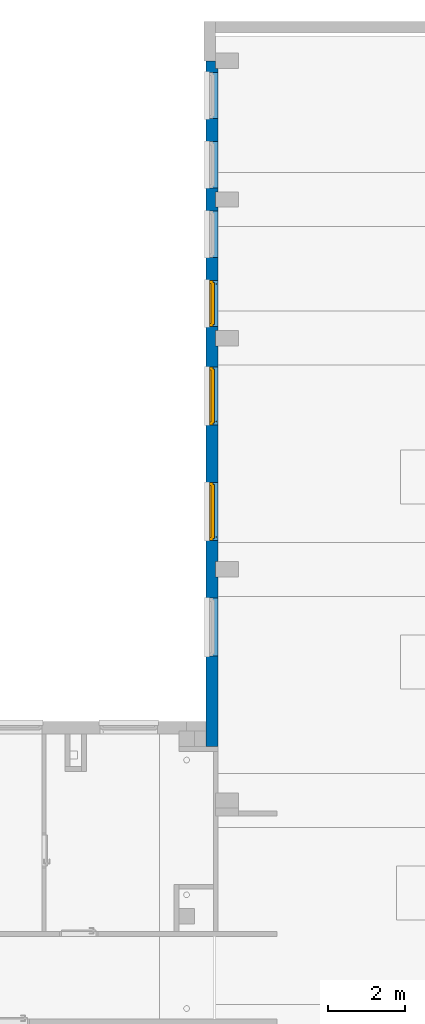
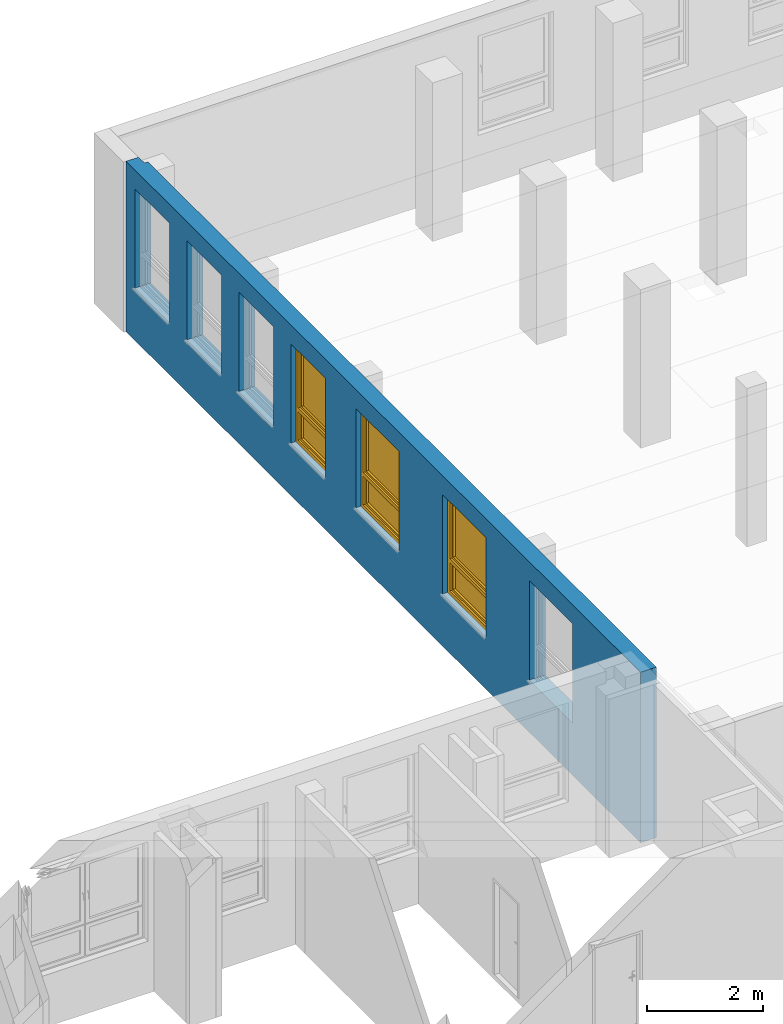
# One storey, part 26 of 50: 3 windows, 1 wall, 7 openings.
"""IFC4 building model written with IfcOpenShell, lengths in metres."""

from ifc_helpers import new_model, entity, si_unit, converted_unit, derived_unit, frame, origin, origin_with_axes, place, context, subcontext, project, spatial, polyline, outline, extrude, clip, bounded_halfspace, closed_shell, open_shell, surface_model, source, transform, mapped, material, layer, layer_set, layer_usage, element, fill, save


model = new_model("IFC4")

# Units and contexts
model_context = context("Model", 3, precision=1e-05, world=origin())
body_context = subcontext(model_context, "Body", "Model", "MODEL_VIEW")
ifc_project = project(units=[si_unit("LENGTHUNIT", "METRE"), si_unit("AREAUNIT", "SQUARE_METRE"), si_unit("VOLUMEUNIT", "CUBIC_METRE"), si_unit("MASSUNIT", "GRAM", prefix="KILO"), converted_unit("PLANEANGLEUNIT", "DEGREE", entity("IfcPlaneAngleMeasure", 0.0174532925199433), si_unit("PLANEANGLEUNIT", "RADIAN"), dimensions=[0, 0, 0, 0, 0, 0, 0]), derived_unit("THERMALTRANSMITTANCEUNIT", [(si_unit("POWERUNIT", "WATT"), 1), (si_unit("THERMODYNAMICTEMPERATUREUNIT", "KELVIN"), -1), (si_unit("LENGTHUNIT", "METRE"), -2)]), derived_unit("VOLUMETRICFLOWRATEUNIT", [(si_unit("LENGTHUNIT", "METRE"), 3), (converted_unit("TIMEUNIT", "hour", entity("IfcTimeMeasure", 3600.0), si_unit("TIMEUNIT", "SECOND"), dimensions=[0, 0, 1, 0, 0, 0, 0]), -1), (si_unit("LENGTHUNIT", "METRE"), -1)])], contexts=[model_context])

# Site, building, storey
site_placement = place(None, origin())
site = spatial("IfcSite", under=ifc_project, at=site_placement, Name="3. ASŘ", CompositionType="ELEMENT")
building_placement = place(site_placement, origin())
building = spatial("IfcBuilding", under=site, at=building_placement, Name="Pavilon C", CompositionType="ELEMENT")
storey_placement = place(building_placement, frame((0.0, 0.0, 3.6)))
storey = spatial("IfcBuildingStorey", under=building, at=storey_placement, Name="Půdorys 2.NP", CompositionType="ELEMENT", Elevation=3.6)

# Wall, openings, windows
ifc_material = material(Name="ZELEZOBETONOVÁ KCE")
ifc_layer = layer(ifc_material, 0.32)
ifc_layer_set = layer_set([ifc_layer])
ifc_layer_usage = layer_usage(ifc_layer_set, "AXIS2", "POSITIVE", 0.0)
wall_placement = place(storey_placement, frame((24.5, 32.4, -0.1), z_axis=(0.0, 0.0, 1.0), x_axis=(-2.04380831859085e-16, -1.0, 0.0)))
wall = element("IfcWall", 1, at=wall_placement, inside=storey, material=ifc_layer_usage, Name="ZELEZOBETONOVÁ KCE", context=body_context, shape_type="Clipping", body=[
    clip(clip(clip(extrude(outline(polyline([(-17.8, 0.0), (0.0, 0.0), (-6.54018661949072e-17, 0.32), (-17.6, 0.32), (-17.6, 0.25), (-17.8, 0.25), (-17.8, 0.0)])), frame((17.8, 0.0, 0.0), z_axis=(0.0, 0.0, 1.0), x_axis=(1.0, 0.0, 0.0)), (0.0, 0.0, 1.0), 3.6), bounded_halfspace(frame((3.6, 0.285000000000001, 3.35), z_axis=(0.0, 0.0, 1.0), x_axis=(2.04380831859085e-16, -1.0, 0.0)), True, origin_with_axes(), polyline([(3.4, 0.320000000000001), (3.4, 0.250000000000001), (3.8, 0.250000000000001), (3.8, 0.320000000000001), (3.4, 0.320000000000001)]))), bounded_halfspace(frame((7.2, 0.285000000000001, 3.35), z_axis=(0.0, 0.0, 1.0), x_axis=(2.04380831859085e-16, -1.0, 0.0)), True, origin_with_axes(), polyline([(7.0, 0.320000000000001), (7.0, 0.250000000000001), (7.4, 0.250000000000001), (7.4, 0.320000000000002), (7.0, 0.320000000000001)]))), bounded_halfspace(frame((13.2, 0.285000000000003, 3.35), z_axis=(0.0, 0.0, 1.0), x_axis=(2.04380831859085e-16, -1.0, 0.0)), True, origin_with_axes(), polyline([(13.0, 0.320000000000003), (13.0, 0.250000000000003), (13.4, 0.250000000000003), (13.4, 0.320000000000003), (13.0, 0.320000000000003)]))),
])
opening_1_placement = place(wall_placement, frame((13.95, -7.86866202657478e-16, 1.1), z_axis=(0.0, 1.0, 0.0), x_axis=(0.0, 0.0, 1.0)))
element("IfcOpeningElement", 2, at=opening_1_placement, cuts=wall, Name="Okenní otvor", ObjectType="Opening", context=body_context, shape_type="SweptSolid", body=[
    extrude(outline(polyline([(0.0, 1.5), (2.1, 1.5), (2.1, 0.0), (0.0, 0.0), (0.0, 1.5)])), origin_with_axes(), (0.0, 0.0, 1.0), 0.32),
])
opening_2_placement = place(wall_placement, frame((10.95, -1.40000869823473e-15, 1.1), z_axis=(0.0, 1.0, 0.0), x_axis=(0.0, 0.0, 1.0)))
opening_2 = element("IfcOpeningElement", 3, at=opening_2_placement, cuts=wall, Name="Okenní otvor", ObjectType="Opening", context=body_context, shape_type="SweptSolid", body=[
    extrude(outline(polyline([(0.0, 1.5), (2.1, 1.5), (2.1, 0.0), (0.0, 0.0), (0.0, 1.5)])), origin_with_axes(), (0.0, 0.0, 1.0), 0.32),
])
opening_3_placement = place(wall_placement, frame((7.95, -2.01315119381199e-15, 1.1), z_axis=(0.0, 1.0, 0.0), x_axis=(0.0, 0.0, 1.0)))
opening_3 = element("IfcOpeningElement", 4, at=opening_3_placement, cuts=wall, Name="Okenní otvor", ObjectType="Opening", context=body_context, shape_type="SweptSolid", body=[
    extrude(outline(polyline([(0.0, 1.5), (2.1, 1.5), (2.1, 0.0), (0.0, 0.0), (0.0, 1.5)])), origin_with_axes(), (0.0, 0.0, 1.0), 0.320000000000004),
])
opening_4_placement = place(wall_placement, frame((5.7, 1.16497074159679e-15, 1.1), z_axis=(0.0, 1.0, 0.0), x_axis=(0.0, 0.0, 1.0)))
opening_4 = element("IfcOpeningElement", 5, at=opening_4_placement, cuts=wall, Name="Okenní otvor", ObjectType="Opening", context=body_context, shape_type="SweptSolid", body=[
    extrude(outline(polyline([(0.0, 1.2), (2.1, 1.2), (2.1, 0.0), (0.0, 0.0), (0.0, 1.2)])), origin_with_axes(), (0.0, 0.0, 1.0), 0.32),
])
opening_5_placement = place(wall_placement, frame((3.90000000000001, 7.97085244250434e-16, 1.1), z_axis=(0.0, 1.0, 0.0), x_axis=(0.0, 0.0, 1.0)))
element("IfcOpeningElement", 6, at=opening_5_placement, cuts=wall, Name="Okenní otvor", ObjectType="Opening", context=body_context, shape_type="SweptSolid", body=[
    extrude(outline(polyline([(0.0, 1.2), (2.1, 1.2), (2.1, 0.0), (0.0, 0.0), (0.0, 1.2)])), origin_with_axes(), (0.0, 0.0, 1.0), 0.32),
])
opening_6_placement = place(wall_placement, frame((2.10000000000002, 4.29199746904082e-16, 1.1), z_axis=(0.0, 1.0, 0.0), x_axis=(0.0, 0.0, 1.0)))
element("IfcOpeningElement", 7, at=opening_6_placement, cuts=wall, Name="Okenní otvor", ObjectType="Opening", context=body_context, shape_type="SweptSolid", body=[
    extrude(outline(polyline([(0.0, 1.2), (2.1, 1.2), (2.1, 0.0), (0.0, 0.0), (0.0, 1.2)])), origin_with_axes(), (0.0, 0.0, 1.0), 0.32),
])
opening_7_placement = place(wall_placement, frame((0.300000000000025, 6.13142495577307e-17, 1.1), z_axis=(-1.77635683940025e-16, 1.0, 0.0), x_axis=(0.0, 0.0, 1.0)))
element("IfcOpeningElement", 8, at=opening_7_placement, cuts=wall, Name="Okenní otvor", ObjectType="Opening", context=body_context, shape_type="SweptSolid", body=[
    extrude(outline(polyline([(0.0, 1.2), (2.1, 1.2), (2.1, 0.0), (0.0, 0.0), (0.0, 1.2)])), origin_with_axes(), (0.0, 0.0, 1.0), 0.32),
])
shared_shape_1 = source(origin_with_axes(), body_context, "Body", "SurfaceModel", [
    surface_model("IfcShellBasedSurfaceModel", [(0.0, 0.182, 2.1), (0.0, 0.182, -5.63337527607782e-18), (0.08, 0.182, -5.63337527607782e-18), (0.08, 0.182, 2.1), (0.0, 0.0899999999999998, 5.63337527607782e-18), (0.0, 0.0900000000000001, 2.1), (0.08, 0.0900000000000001, 2.1), (0.08, 0.0899999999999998, 5.63337527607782e-18)], [closed_shell([[[0, 1, 2, 3]], [[4, 5, 6, 7]], [[1, 0, 5, 4]], [[2, 1, 4, 7]], [[3, 2, 7, 6]], [[0, 3, 6, 5]]], orient=[[False], [False], [False], [False], [False], [False]])]),
    surface_model("IfcShellBasedSurfaceModel", [(1.42, 0.182, 2.1), (1.42, 0.182, -5.63337527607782e-18), (1.5, 0.182, -5.63337527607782e-18), (1.5, 0.182, 2.1), (1.42, 0.0899999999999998, 5.63337527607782e-18), (1.42, 0.0900000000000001, 2.1), (1.5, 0.0900000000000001, 2.1), (1.5, 0.0899999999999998, 5.63337527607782e-18)], [closed_shell([[[0, 1, 2, 3]], [[4, 5, 6, 7]], [[1, 0, 5, 4]], [[2, 1, 4, 7]], [[3, 2, 7, 6]], [[0, 3, 6, 5]]], orient=[[False], [False], [False], [False], [False], [False]])]),
    surface_model("IfcShellBasedSurfaceModel", [(0.08, 0.182, 0.08), (0.08, 0.182, -5.63337527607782e-18), (1.42, 0.182, -5.63337527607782e-18), (1.42, 0.182, 0.08), (0.08, 0.0899999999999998, 5.63337527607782e-18), (0.08, 0.0899999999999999, 0.08), (1.42, 0.0899999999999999, 0.08), (1.42, 0.0899999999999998, 5.63337527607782e-18)], [closed_shell([[[0, 1, 2, 3]], [[4, 5, 6, 7]], [[1, 0, 5, 4]], [[2, 1, 4, 7]], [[3, 2, 7, 6]], [[0, 3, 6, 5]]], orient=[[False], [False], [False], [False], [False], [False]])]),
    surface_model("IfcShellBasedSurfaceModel", [(0.08, 0.182, 2.1), (0.08, 0.182, 2.02), (1.42, 0.182, 2.02), (1.42, 0.182, 2.1), (0.08, 0.0900000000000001, 2.02), (0.08, 0.0900000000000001, 2.1), (1.42, 0.0900000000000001, 2.1), (1.42, 0.0900000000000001, 2.02)], [closed_shell([[[0, 1, 2, 3]], [[4, 5, 6, 7]], [[1, 0, 5, 4]], [[2, 1, 4, 7]], [[3, 2, 7, 6]], [[0, 3, 6, 5]]], orient=[[False], [False], [False], [False], [False], [False]])]),
    surface_model("IfcShellBasedSurfaceModel", [(0.08, 0.182, 0.76), (0.08, 0.182, 0.68), (1.42, 0.182, 0.68), (1.42, 0.182, 0.76), (0.08, 0.0899999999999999, 0.68), (0.08, 0.0899999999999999, 0.76), (1.42, 0.0899999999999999, 0.76), (1.42, 0.0899999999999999, 0.68)], [closed_shell([[[0, 1, 2, 3]], [[4, 5, 6, 7]], [[1, 0, 5, 4]], [[2, 1, 4, 7]], [[3, 2, 7, 6]], [[0, 3, 6, 5]]], orient=[[False], [False], [False], [False], [False], [False]])]),
    surface_model("IfcShellBasedSurfaceModel", [(0.05, 0.145, 0.71), (0.05, 0.145, 0.05), (0.13, 0.145, 0.05), (0.13, 0.145, 0.71), (0.05, 0.0599999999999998, 0.05), (0.05, 0.0599999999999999, 0.71), (0.13, 0.0599999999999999, 0.71), (0.13, 0.0599999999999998, 0.05)], [closed_shell([[[0, 1, 2, 3]], [[4, 5, 6, 7]], [[1, 0, 5, 4]], [[2, 1, 4, 7]], [[3, 2, 7, 6]], [[0, 3, 6, 5]]], orient=[[False], [False], [False], [False], [False], [False]])]),
    surface_model("IfcShellBasedSurfaceModel", [(1.37, 0.145, 0.71), (1.37, 0.145, 0.05), (1.45, 0.145, 0.05), (1.45, 0.145, 0.71), (1.37, 0.0599999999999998, 0.05), (1.37, 0.0599999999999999, 0.71), (1.45, 0.0599999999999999, 0.71), (1.45, 0.0599999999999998, 0.05)], [closed_shell([[[0, 1, 2, 3]], [[4, 5, 6, 7]], [[1, 0, 5, 4]], [[2, 1, 4, 7]], [[3, 2, 7, 6]], [[0, 3, 6, 5]]], orient=[[False], [False], [False], [False], [False], [False]])]),
    surface_model("IfcShellBasedSurfaceModel", [(0.13, 0.145, 0.13), (0.13, 0.145, 0.05), (1.37, 0.145, 0.05), (1.37, 0.145, 0.13), (0.13, 0.0599999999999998, 0.05), (0.13, 0.0599999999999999, 0.13), (1.37, 0.0599999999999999, 0.13), (1.37, 0.0599999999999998, 0.05)], [closed_shell([[[0, 1, 2, 3]], [[4, 5, 6, 7]], [[1, 0, 5, 4]], [[2, 1, 4, 7]], [[3, 2, 7, 6]], [[0, 3, 6, 5]]], orient=[[False], [False], [False], [False], [False], [False]])]),
    surface_model("IfcShellBasedSurfaceModel", [(0.13, 0.145, 0.71), (0.13, 0.145, 0.63), (1.37, 0.145, 0.63), (1.37, 0.145, 0.71), (0.13, 0.0599999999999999, 0.63), (0.13, 0.0599999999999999, 0.71), (1.37, 0.0599999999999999, 0.71), (1.37, 0.0599999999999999, 0.63)], [closed_shell([[[0, 1, 2, 3]], [[4, 5, 6, 7]], [[1, 0, 5, 4]], [[2, 1, 4, 7]], [[3, 2, 7, 6]], [[0, 3, 6, 5]]], orient=[[False], [False], [False], [False], [False], [False]])]),
    surface_model("IfcShellBasedSurfaceModel", [(0.05, 0.145, 2.05), (0.05, 0.145, 0.73), (0.13, 0.145, 0.73), (0.13, 0.145, 2.05), (0.05, 0.0599999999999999, 0.73), (0.05, 0.0600000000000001, 2.05), (0.13, 0.0600000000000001, 2.05), (0.13, 0.0599999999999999, 0.73)], [closed_shell([[[0, 1, 2, 3]], [[4, 5, 6, 7]], [[1, 0, 5, 4]], [[2, 1, 4, 7]], [[3, 2, 7, 6]], [[0, 3, 6, 5]]], orient=[[False], [False], [False], [False], [False], [False]])]),
    surface_model("IfcShellBasedSurfaceModel", [(1.37, 0.145, 2.05), (1.37, 0.145, 0.73), (1.45, 0.145, 0.73), (1.45, 0.145, 2.05), (1.37, 0.0599999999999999, 0.73), (1.37, 0.0600000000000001, 2.05), (1.45, 0.0600000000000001, 2.05), (1.45, 0.0599999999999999, 0.73)], [closed_shell([[[0, 1, 2, 3]], [[4, 5, 6, 7]], [[1, 0, 5, 4]], [[2, 1, 4, 7]], [[3, 2, 7, 6]], [[0, 3, 6, 5]]], orient=[[False], [False], [False], [False], [False], [False]])]),
    surface_model("IfcShellBasedSurfaceModel", [(0.13, 0.145, 0.81), (0.13, 0.145, 0.73), (1.37, 0.145, 0.73), (1.37, 0.145, 0.81), (0.13, 0.0599999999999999, 0.73), (0.13, 0.0599999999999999, 0.81), (1.37, 0.0599999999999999, 0.81), (1.37, 0.0599999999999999, 0.73)], [closed_shell([[[0, 1, 2, 3]], [[4, 5, 6, 7]], [[1, 0, 5, 4]], [[2, 1, 4, 7]], [[3, 2, 7, 6]], [[0, 3, 6, 5]]], orient=[[False], [False], [False], [False], [False], [False]])]),
    surface_model("IfcShellBasedSurfaceModel", [(0.13, 0.145, 2.05), (0.13, 0.145, 1.97), (1.37, 0.145, 1.97), (1.37, 0.145, 2.05), (0.13, 0.0600000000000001, 1.97), (0.13, 0.0600000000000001, 2.05), (1.37, 0.0600000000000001, 2.05), (1.37, 0.0600000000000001, 1.97)], [closed_shell([[[0, 1, 2, 3]], [[4, 5, 6, 7]], [[1, 0, 5, 4]], [[2, 1, 4, 7]], [[3, 2, 7, 6]], [[0, 3, 6, 5]]], orient=[[False], [False], [False], [False], [False], [False]])]),
    surface_model("IfcShellBasedSurfaceModel", [(0.0775, 0.06, 1.41), (0.0775, 0.06, 1.37), (0.1025, 0.06, 1.37), (0.1025, 0.06, 1.41), (0.0775, 0.05, 1.37), (0.0775, 0.05, 1.41), (0.1025, 0.05, 1.41), (0.1025, 0.05, 1.37)], [closed_shell([[[0, 1, 2, 3]], [[4, 5, 6, 7]], [[1, 0, 5, 4]], [[2, 1, 4, 7]], [[3, 2, 7, 6]], [[0, 3, 6, 5]]], orient=[[False], [False], [False], [False], [False], [False]])]),
    surface_model("IfcShellBasedSurfaceModel", [(0.1, 0.05, 1.39), (0.0986602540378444, 0.05, 1.395), (0.095, 0.05, 1.39866025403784), (0.09, 0.05, 1.4), (0.085, 0.05, 1.39866025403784), (0.0813397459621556, 0.05, 1.395), (0.08, 0.05, 1.39), (0.0813397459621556, 0.05, 1.385), (0.085, 0.05, 1.38133974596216), (0.09, 0.05, 1.38), (0.095, 0.05, 1.38133974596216), (0.0986602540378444, 0.05, 1.385), (0.1, 0.01, 1.39), (0.0986602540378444, 0.00500000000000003, 1.395), (0.095, 0.00133974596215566, 1.39866025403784), (0.09, 2.8421709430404e-17, 1.4), (0.085, 0.00133974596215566, 1.39866025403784), (0.0813397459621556, 0.00500000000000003, 1.395), (0.08, 0.01, 1.39), (0.0813397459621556, 0.015, 1.385), (0.085, 0.0186602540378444, 1.38133974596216), (0.09, 0.02, 1.38), (0.095, 0.0186602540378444, 1.38133974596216), (0.0986602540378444, 0.015, 1.385), (0.1, 0.01, 1.275), (0.0986602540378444, 0.005, 1.275), (0.095, 0.00133974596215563, 1.275), (0.09, 0.0, 1.275), (0.085, 0.00133974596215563, 1.275), (0.0813397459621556, 0.005, 1.275), (0.08, 0.01, 1.275), (0.0813397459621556, 0.015, 1.275), (0.085, 0.0186602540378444, 1.275), (0.09, 0.02, 1.275), (0.095, 0.0186602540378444, 1.275), (0.0986602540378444, 0.015, 1.275)], [open_shell([[[0, 1, 2, 3, 4, 5, 6, 7, 8, 9, 10, 11]], [[0, 12, 13, 1]], [[1, 13, 14, 2]], [[2, 14, 15, 3]], [[3, 15, 16, 4]], [[4, 16, 17, 5]], [[5, 17, 18, 6]], [[6, 18, 19, 7]], [[7, 19, 20, 8]], [[8, 20, 21, 9]], [[9, 21, 22, 10]], [[10, 22, 23, 11]], [[11, 23, 12, 0]], [[12, 24, 25, 13]], [[13, 25, 26, 14]], [[14, 26, 27, 15]], [[15, 27, 28, 16]], [[16, 28, 29, 17]], [[17, 29, 30, 18]], [[18, 30, 31, 19]], [[19, 31, 32, 20]], [[20, 32, 33, 21]], [[21, 33, 34, 22]], [[22, 34, 35, 23]], [[23, 35, 24, 12]]], orient=[[False], [False], [False], [False], [False], [False], [False], [False], [False], [False], [False], [False], [False], [False], [False], [False], [False], [False], [False], [False], [False], [False], [False], [False], [False]])]),
    surface_model("IfcShellBasedSurfaceModel", [(0.13, 0.1025, 0.13), (1.37, 0.1025, 0.13), (1.37, 0.1025, 0.63), (0.13, 0.1025, 0.63)], [open_shell([[[0, 1, 2, 3]]], orient=[[False]])]),
    surface_model("IfcShellBasedSurfaceModel", [(0.13, 0.1025, 0.81), (1.37, 0.1025, 0.81), (1.37, 0.1025, 1.97), (0.13, 0.1025, 1.97)], [open_shell([[[0, 1, 2, 3]]], orient=[[False]])]),
])
window_1_placement = place(opening_2_placement, frame((0.0, 1.50000000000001, 0.281999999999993), z_axis=(1.0, 0.0, 0.0), x_axis=(0.0, -1.0, -8.19161519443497e-17)))
window_1 = element("IfcWindow", 9, at=window_1_placement, inside=storey, Name="O06", OverallHeight=2.1, OverallWidth=1.5, PartitioningType="USERDEFINED", PredefinedType="WINDOW", context=body_context, shape_type="MappedRepresentation", body=[
    mapped(shared_shape_1, transform((0.0, 0.0, 0.0), x_axis=(1.0, 0.0, 0.0), y_axis=(0.0, 1.0, 0.0), z_axis=(0.0, 0.0, 1.0), scale=1.0)),
])
fill(opening_2, window_1)
window_2_placement = place(opening_3_placement, frame((0.0, 1.50000000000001, 0.281999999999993), z_axis=(1.0, 0.0, 0.0), x_axis=(0.0, -1.0, -8.19161519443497e-17)))
window_2 = element("IfcWindow", 10, at=window_2_placement, inside=storey, Name="O06", OverallHeight=2.1, OverallWidth=1.5, PartitioningType="USERDEFINED", PredefinedType="WINDOW", context=body_context, shape_type="MappedRepresentation", body=[
    mapped(shared_shape_1, transform((0.0, 0.0, 0.0), x_axis=(1.0, 0.0, 0.0), y_axis=(0.0, 1.0, 0.0), z_axis=(0.0, 0.0, 1.0), scale=1.0)),
])
fill(opening_3, window_2)
shared_shape_2 = source(origin_with_axes(), body_context, "Body", "SurfaceModel", [
    surface_model("IfcShellBasedSurfaceModel", [(0.0, 0.182, 2.1), (0.0, 0.182, -5.63337527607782e-18), (0.08, 0.182, -5.63337527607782e-18), (0.08, 0.182, 2.1), (0.0, 0.0899999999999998, 5.63337527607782e-18), (0.0, 0.0900000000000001, 2.1), (0.08, 0.0900000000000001, 2.1), (0.08, 0.0899999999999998, 5.63337527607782e-18)], [closed_shell([[[0, 1, 2, 3]], [[4, 5, 6, 7]], [[1, 0, 5, 4]], [[2, 1, 4, 7]], [[3, 2, 7, 6]], [[0, 3, 6, 5]]], orient=[[False], [False], [False], [False], [False], [False]])]),
    surface_model("IfcShellBasedSurfaceModel", [(1.12, 0.182, 2.1), (1.12, 0.182, -5.63337527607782e-18), (1.2, 0.182, -5.63337527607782e-18), (1.2, 0.182, 2.1), (1.12, 0.0899999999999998, 5.63337527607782e-18), (1.12, 0.0900000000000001, 2.1), (1.2, 0.0900000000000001, 2.1), (1.2, 0.0899999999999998, 5.63337527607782e-18)], [closed_shell([[[0, 1, 2, 3]], [[4, 5, 6, 7]], [[1, 0, 5, 4]], [[2, 1, 4, 7]], [[3, 2, 7, 6]], [[0, 3, 6, 5]]], orient=[[False], [False], [False], [False], [False], [False]])]),
    surface_model("IfcShellBasedSurfaceModel", [(0.08, 0.182, 0.08), (0.08, 0.182, -5.63337527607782e-18), (1.12, 0.182, -5.63337527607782e-18), (1.12, 0.182, 0.08), (0.08, 0.0899999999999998, 5.63337527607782e-18), (0.08, 0.0899999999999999, 0.08), (1.12, 0.0899999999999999, 0.08), (1.12, 0.0899999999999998, 5.63337527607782e-18)], [closed_shell([[[0, 1, 2, 3]], [[4, 5, 6, 7]], [[1, 0, 5, 4]], [[2, 1, 4, 7]], [[3, 2, 7, 6]], [[0, 3, 6, 5]]], orient=[[False], [False], [False], [False], [False], [False]])]),
    surface_model("IfcShellBasedSurfaceModel", [(0.08, 0.182, 2.1), (0.08, 0.182, 2.02), (1.12, 0.182, 2.02), (1.12, 0.182, 2.1), (0.08, 0.0900000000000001, 2.02), (0.08, 0.0900000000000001, 2.1), (1.12, 0.0900000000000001, 2.1), (1.12, 0.0900000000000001, 2.02)], [closed_shell([[[0, 1, 2, 3]], [[4, 5, 6, 7]], [[1, 0, 5, 4]], [[2, 1, 4, 7]], [[3, 2, 7, 6]], [[0, 3, 6, 5]]], orient=[[False], [False], [False], [False], [False], [False]])]),
    surface_model("IfcShellBasedSurfaceModel", [(0.08, 0.182, 0.76), (0.08, 0.182, 0.68), (1.12, 0.182, 0.68), (1.12, 0.182, 0.76), (0.08, 0.0899999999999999, 0.68), (0.08, 0.0899999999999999, 0.76), (1.12, 0.0899999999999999, 0.76), (1.12, 0.0899999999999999, 0.68)], [closed_shell([[[0, 1, 2, 3]], [[4, 5, 6, 7]], [[1, 0, 5, 4]], [[2, 1, 4, 7]], [[3, 2, 7, 6]], [[0, 3, 6, 5]]], orient=[[False], [False], [False], [False], [False], [False]])]),
    surface_model("IfcShellBasedSurfaceModel", [(0.05, 0.145, 0.71), (0.05, 0.145, 0.05), (0.13, 0.145, 0.05), (0.13, 0.145, 0.71), (0.05, 0.0599999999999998, 0.05), (0.05, 0.0599999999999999, 0.71), (0.13, 0.0599999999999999, 0.71), (0.13, 0.0599999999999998, 0.05)], [closed_shell([[[0, 1, 2, 3]], [[4, 5, 6, 7]], [[1, 0, 5, 4]], [[2, 1, 4, 7]], [[3, 2, 7, 6]], [[0, 3, 6, 5]]], orient=[[False], [False], [False], [False], [False], [False]])]),
    surface_model("IfcShellBasedSurfaceModel", [(1.07, 0.145, 0.71), (1.07, 0.145, 0.05), (1.15, 0.145, 0.05), (1.15, 0.145, 0.71), (1.07, 0.0599999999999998, 0.05), (1.07, 0.0599999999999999, 0.71), (1.15, 0.0599999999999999, 0.71), (1.15, 0.0599999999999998, 0.05)], [closed_shell([[[0, 1, 2, 3]], [[4, 5, 6, 7]], [[1, 0, 5, 4]], [[2, 1, 4, 7]], [[3, 2, 7, 6]], [[0, 3, 6, 5]]], orient=[[False], [False], [False], [False], [False], [False]])]),
    surface_model("IfcShellBasedSurfaceModel", [(0.13, 0.145, 0.13), (0.13, 0.145, 0.05), (1.07, 0.145, 0.05), (1.07, 0.145, 0.13), (0.13, 0.0599999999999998, 0.05), (0.13, 0.0599999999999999, 0.13), (1.07, 0.0599999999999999, 0.13), (1.07, 0.0599999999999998, 0.05)], [closed_shell([[[0, 1, 2, 3]], [[4, 5, 6, 7]], [[1, 0, 5, 4]], [[2, 1, 4, 7]], [[3, 2, 7, 6]], [[0, 3, 6, 5]]], orient=[[False], [False], [False], [False], [False], [False]])]),
    surface_model("IfcShellBasedSurfaceModel", [(0.13, 0.145, 0.71), (0.13, 0.145, 0.63), (1.07, 0.145, 0.63), (1.07, 0.145, 0.71), (0.13, 0.0599999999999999, 0.63), (0.13, 0.0599999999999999, 0.71), (1.07, 0.0599999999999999, 0.71), (1.07, 0.0599999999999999, 0.63)], [closed_shell([[[0, 1, 2, 3]], [[4, 5, 6, 7]], [[1, 0, 5, 4]], [[2, 1, 4, 7]], [[3, 2, 7, 6]], [[0, 3, 6, 5]]], orient=[[False], [False], [False], [False], [False], [False]])]),
    surface_model("IfcShellBasedSurfaceModel", [(0.05, 0.145, 2.05), (0.05, 0.145, 0.73), (0.13, 0.145, 0.73), (0.13, 0.145, 2.05), (0.05, 0.0599999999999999, 0.73), (0.05, 0.0600000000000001, 2.05), (0.13, 0.0600000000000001, 2.05), (0.13, 0.0599999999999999, 0.73)], [closed_shell([[[0, 1, 2, 3]], [[4, 5, 6, 7]], [[1, 0, 5, 4]], [[2, 1, 4, 7]], [[3, 2, 7, 6]], [[0, 3, 6, 5]]], orient=[[False], [False], [False], [False], [False], [False]])]),
    surface_model("IfcShellBasedSurfaceModel", [(1.07, 0.145, 2.05), (1.07, 0.145, 0.73), (1.15, 0.145, 0.73), (1.15, 0.145, 2.05), (1.07, 0.0599999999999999, 0.73), (1.07, 0.0600000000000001, 2.05), (1.15, 0.0600000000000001, 2.05), (1.15, 0.0599999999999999, 0.73)], [closed_shell([[[0, 1, 2, 3]], [[4, 5, 6, 7]], [[1, 0, 5, 4]], [[2, 1, 4, 7]], [[3, 2, 7, 6]], [[0, 3, 6, 5]]], orient=[[False], [False], [False], [False], [False], [False]])]),
    surface_model("IfcShellBasedSurfaceModel", [(0.13, 0.145, 0.81), (0.13, 0.145, 0.73), (1.07, 0.145, 0.73), (1.07, 0.145, 0.81), (0.13, 0.0599999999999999, 0.73), (0.13, 0.0599999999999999, 0.81), (1.07, 0.0599999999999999, 0.81), (1.07, 0.0599999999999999, 0.73)], [closed_shell([[[0, 1, 2, 3]], [[4, 5, 6, 7]], [[1, 0, 5, 4]], [[2, 1, 4, 7]], [[3, 2, 7, 6]], [[0, 3, 6, 5]]], orient=[[False], [False], [False], [False], [False], [False]])]),
    surface_model("IfcShellBasedSurfaceModel", [(0.13, 0.145, 2.05), (0.13, 0.145, 1.97), (1.07, 0.145, 1.97), (1.07, 0.145, 2.05), (0.13, 0.0600000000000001, 1.97), (0.13, 0.0600000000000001, 2.05), (1.07, 0.0600000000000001, 2.05), (1.07, 0.0600000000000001, 1.97)], [closed_shell([[[0, 1, 2, 3]], [[4, 5, 6, 7]], [[1, 0, 5, 4]], [[2, 1, 4, 7]], [[3, 2, 7, 6]], [[0, 3, 6, 5]]], orient=[[False], [False], [False], [False], [False], [False]])]),
    surface_model("IfcShellBasedSurfaceModel", [(0.0775, 0.06, 1.41), (0.0775, 0.06, 1.37), (0.1025, 0.06, 1.37), (0.1025, 0.06, 1.41), (0.0775, 0.05, 1.37), (0.0775, 0.05, 1.41), (0.1025, 0.05, 1.41), (0.1025, 0.05, 1.37)], [closed_shell([[[0, 1, 2, 3]], [[4, 5, 6, 7]], [[1, 0, 5, 4]], [[2, 1, 4, 7]], [[3, 2, 7, 6]], [[0, 3, 6, 5]]], orient=[[False], [False], [False], [False], [False], [False]])]),
    surface_model("IfcShellBasedSurfaceModel", [(0.1, 0.05, 1.39), (0.0986602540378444, 0.05, 1.395), (0.095, 0.05, 1.39866025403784), (0.09, 0.05, 1.4), (0.085, 0.05, 1.39866025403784), (0.0813397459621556, 0.05, 1.395), (0.08, 0.05, 1.39), (0.0813397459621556, 0.05, 1.385), (0.085, 0.05, 1.38133974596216), (0.09, 0.05, 1.38), (0.095, 0.05, 1.38133974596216), (0.0986602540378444, 0.05, 1.385), (0.1, 0.01, 1.39), (0.0986602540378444, 0.00500000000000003, 1.395), (0.095, 0.00133974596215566, 1.39866025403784), (0.09, 2.8421709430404e-17, 1.4), (0.085, 0.00133974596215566, 1.39866025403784), (0.0813397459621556, 0.00500000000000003, 1.395), (0.08, 0.01, 1.39), (0.0813397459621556, 0.015, 1.385), (0.085, 0.0186602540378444, 1.38133974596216), (0.09, 0.02, 1.38), (0.095, 0.0186602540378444, 1.38133974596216), (0.0986602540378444, 0.015, 1.385), (0.1, 0.01, 1.275), (0.0986602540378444, 0.005, 1.275), (0.095, 0.00133974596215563, 1.275), (0.09, 0.0, 1.275), (0.085, 0.00133974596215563, 1.275), (0.0813397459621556, 0.005, 1.275), (0.08, 0.01, 1.275), (0.0813397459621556, 0.015, 1.275), (0.085, 0.0186602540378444, 1.275), (0.09, 0.02, 1.275), (0.095, 0.0186602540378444, 1.275), (0.0986602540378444, 0.015, 1.275)], [open_shell([[[0, 1, 2, 3, 4, 5, 6, 7, 8, 9, 10, 11]], [[0, 12, 13, 1]], [[1, 13, 14, 2]], [[2, 14, 15, 3]], [[3, 15, 16, 4]], [[4, 16, 17, 5]], [[5, 17, 18, 6]], [[6, 18, 19, 7]], [[7, 19, 20, 8]], [[8, 20, 21, 9]], [[9, 21, 22, 10]], [[10, 22, 23, 11]], [[11, 23, 12, 0]], [[12, 24, 25, 13]], [[13, 25, 26, 14]], [[14, 26, 27, 15]], [[15, 27, 28, 16]], [[16, 28, 29, 17]], [[17, 29, 30, 18]], [[18, 30, 31, 19]], [[19, 31, 32, 20]], [[20, 32, 33, 21]], [[21, 33, 34, 22]], [[22, 34, 35, 23]], [[23, 35, 24, 12]]], orient=[[False], [False], [False], [False], [False], [False], [False], [False], [False], [False], [False], [False], [False], [False], [False], [False], [False], [False], [False], [False], [False], [False], [False], [False], [False]])]),
    surface_model("IfcShellBasedSurfaceModel", [(0.13, 0.1025, 0.13), (1.07, 0.1025, 0.13), (1.07, 0.1025, 0.63), (0.13, 0.1025, 0.63)], [open_shell([[[0, 1, 2, 3]]], orient=[[False]])]),
    surface_model("IfcShellBasedSurfaceModel", [(0.13, 0.1025, 0.81), (1.07, 0.1025, 0.81), (1.07, 0.1025, 1.97), (0.13, 0.1025, 1.97)], [open_shell([[[0, 1, 2, 3]]], orient=[[False]])]),
])
window_3_placement = place(opening_4_placement, frame((0.0, 7.27595761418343e-15, 0.281999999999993), z_axis=(1.0, 0.0, 0.0), x_axis=(0.0, 1.0, 8.19161519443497e-17)))
window_3 = element("IfcWindow", 11, at=window_3_placement, inside=storey, Name="O06", OverallHeight=2.1, OverallWidth=1.2, PartitioningType="USERDEFINED", PredefinedType="WINDOW", context=body_context, shape_type="MappedRepresentation", body=[
    mapped(shared_shape_2, transform((0.0, 0.0, 0.0), x_axis=(1.0, 0.0, 0.0), y_axis=(0.0, -1.0, 0.0), z_axis=(0.0, 0.0, 1.0), scale=1.0)),
])
fill(opening_4, window_3)

save(model, "model.ifc")
